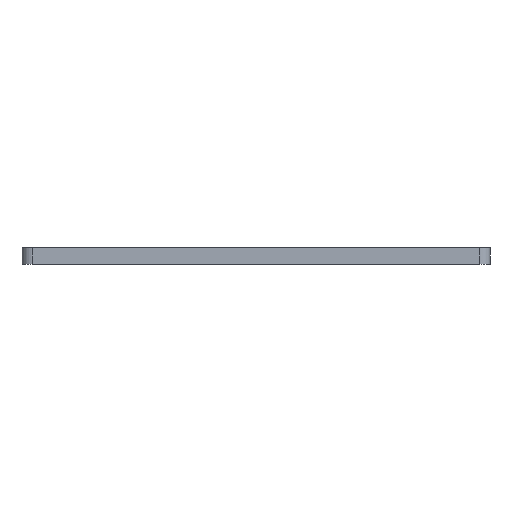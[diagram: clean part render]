
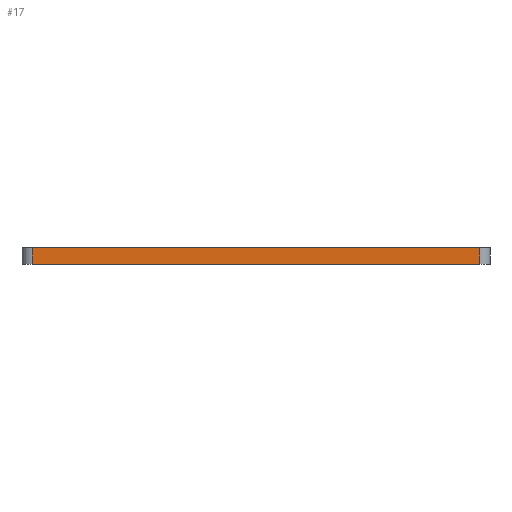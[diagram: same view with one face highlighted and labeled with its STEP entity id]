
A CAD part, left-side view. The second image highlights one B-rep face of the part: STEP entity #17.
In plain terms, the highlighted planar face has unit normal (-1, 0, 0).
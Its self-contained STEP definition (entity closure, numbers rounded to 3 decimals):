
#17 = ADVANCED_FACE('',(#18),#32,.T.);
#18 = FACE_BOUND('',#19,.T.);
#19 = EDGE_LOOP('',(#20,#55,#83,#111));
#20 = ORIENTED_EDGE('',*,*,#21,.T.);
#21 = EDGE_CURVE('',#22,#24,#26,.T.);
#22 = VERTEX_POINT('',#23);
#23 = CARTESIAN_POINT('',(0.,3.75,0.));
#24 = VERTEX_POINT('',#25);
#25 = CARTESIAN_POINT('',(0.,3.75,5.8));
#26 = SURFACE_CURVE('',#27,(#31,#43),.PCURVE_S1.);
#27 = LINE('',#28,#29);
#28 = CARTESIAN_POINT('',(0.,3.75,0.));
#29 = VECTOR('',#30,1.);
#30 = DIRECTION('',(0.,0.,1.));
#31 = PCURVE('',#32,#37);
#32 = PLANE('',#33);
#33 = AXIS2_PLACEMENT_3D('',#34,#35,#36);
#34 = CARTESIAN_POINT('',(0.,3.75,0.));
#35 = DIRECTION('',(-1.,0.,0.));
#36 = DIRECTION('',(0.,1.,0.));
#37 = DEFINITIONAL_REPRESENTATION('',(#38),#42);
#38 = LINE('',#39,#40);
#39 = CARTESIAN_POINT('',(0.,0.));
#40 = VECTOR('',#41,1.);
#41 = DIRECTION('',(0.,-1.));
#42 = ( GEOMETRIC_REPRESENTATION_CONTEXT(2) 
PARAMETRIC_REPRESENTATION_CONTEXT() REPRESENTATION_CONTEXT('2D SPACE',''
  ) );
#43 = PCURVE('',#44,#49);
#44 = CYLINDRICAL_SURFACE('',#45,3.75);
#45 = AXIS2_PLACEMENT_3D('',#46,#47,#48);
#46 = CARTESIAN_POINT('',(3.75,3.75,0.));
#47 = DIRECTION('',(0.,0.,-1.));
#48 = DIRECTION('',(-1.,0.,0.));
#49 = DEFINITIONAL_REPRESENTATION('',(#50),#54);
#50 = LINE('',#51,#52);
#51 = CARTESIAN_POINT('',(6.283,0.));
#52 = VECTOR('',#53,1.);
#53 = DIRECTION('',(0.,-1.));
#54 = ( GEOMETRIC_REPRESENTATION_CONTEXT(2) 
PARAMETRIC_REPRESENTATION_CONTEXT() REPRESENTATION_CONTEXT('2D SPACE',''
  ) );
#55 = ORIENTED_EDGE('',*,*,#56,.T.);
#56 = EDGE_CURVE('',#24,#57,#59,.T.);
#57 = VERTEX_POINT('',#58);
#58 = CARTESIAN_POINT('',(0.,164.25,5.8));
#59 = SURFACE_CURVE('',#60,(#64,#71),.PCURVE_S1.);
#60 = LINE('',#61,#62);
#61 = CARTESIAN_POINT('',(0.,84.,5.8));
#62 = VECTOR('',#63,1.);
#63 = DIRECTION('',(0.,1.,0.));
#64 = PCURVE('',#32,#65);
#65 = DEFINITIONAL_REPRESENTATION('',(#66),#70);
#66 = LINE('',#67,#68);
#67 = CARTESIAN_POINT('',(80.25,-5.8));
#68 = VECTOR('',#69,1.);
#69 = DIRECTION('',(1.,0.));
#70 = ( GEOMETRIC_REPRESENTATION_CONTEXT(2) 
PARAMETRIC_REPRESENTATION_CONTEXT() REPRESENTATION_CONTEXT('2D SPACE',''
  ) );
#71 = PCURVE('',#72,#77);
#72 = PLANE('',#73);
#73 = AXIS2_PLACEMENT_3D('',#74,#75,#76);
#74 = CARTESIAN_POINT('',(105.,84.,5.8));
#75 = DIRECTION('',(0.,0.,1.));
#76 = DIRECTION('',(1.,0.,-0.));
#77 = DEFINITIONAL_REPRESENTATION('',(#78),#82);
#78 = LINE('',#79,#80);
#79 = CARTESIAN_POINT('',(-105.,0.));
#80 = VECTOR('',#81,1.);
#81 = DIRECTION('',(0.,1.));
#82 = ( GEOMETRIC_REPRESENTATION_CONTEXT(2) 
PARAMETRIC_REPRESENTATION_CONTEXT() REPRESENTATION_CONTEXT('2D SPACE',''
  ) );
#83 = ORIENTED_EDGE('',*,*,#84,.F.);
#84 = EDGE_CURVE('',#85,#57,#87,.T.);
#85 = VERTEX_POINT('',#86);
#86 = CARTESIAN_POINT('',(0.,164.25,0.));
#87 = SURFACE_CURVE('',#88,(#92,#99),.PCURVE_S1.);
#88 = LINE('',#89,#90);
#89 = CARTESIAN_POINT('',(0.,164.25,0.));
#90 = VECTOR('',#91,1.);
#91 = DIRECTION('',(0.,0.,1.));
#92 = PCURVE('',#32,#93);
#93 = DEFINITIONAL_REPRESENTATION('',(#94),#98);
#94 = LINE('',#95,#96);
#95 = CARTESIAN_POINT('',(160.5,0.));
#96 = VECTOR('',#97,1.);
#97 = DIRECTION('',(0.,-1.));
#98 = ( GEOMETRIC_REPRESENTATION_CONTEXT(2) 
PARAMETRIC_REPRESENTATION_CONTEXT() REPRESENTATION_CONTEXT('2D SPACE',''
  ) );
#99 = PCURVE('',#100,#105);
#100 = CYLINDRICAL_SURFACE('',#101,3.75);
#101 = AXIS2_PLACEMENT_3D('',#102,#103,#104);
#102 = CARTESIAN_POINT('',(3.75,164.25,0.));
#103 = DIRECTION('',(0.,0.,-1.));
#104 = DIRECTION('',(-1.,0.,0.));
#105 = DEFINITIONAL_REPRESENTATION('',(#106),#110);
#106 = LINE('',#107,#108);
#107 = CARTESIAN_POINT('',(0.,0.));
#108 = VECTOR('',#109,1.);
#109 = DIRECTION('',(0.,-1.));
#110 = ( GEOMETRIC_REPRESENTATION_CONTEXT(2) 
PARAMETRIC_REPRESENTATION_CONTEXT() REPRESENTATION_CONTEXT('2D SPACE',''
  ) );
#111 = ORIENTED_EDGE('',*,*,#112,.F.);
#112 = EDGE_CURVE('',#22,#85,#113,.T.);
#113 = SURFACE_CURVE('',#114,(#118,#125),.PCURVE_S1.);
#114 = LINE('',#115,#116);
#115 = CARTESIAN_POINT('',(0.,84.,0.));
#116 = VECTOR('',#117,1.);
#117 = DIRECTION('',(0.,1.,0.));
#118 = PCURVE('',#32,#119);
#119 = DEFINITIONAL_REPRESENTATION('',(#120),#124);
#120 = LINE('',#121,#122);
#121 = CARTESIAN_POINT('',(80.25,0.));
#122 = VECTOR('',#123,1.);
#123 = DIRECTION('',(1.,0.));
#124 = ( GEOMETRIC_REPRESENTATION_CONTEXT(2) 
PARAMETRIC_REPRESENTATION_CONTEXT() REPRESENTATION_CONTEXT('2D SPACE',''
  ) );
#125 = PCURVE('',#126,#131);
#126 = PLANE('',#127);
#127 = AXIS2_PLACEMENT_3D('',#128,#129,#130);
#128 = CARTESIAN_POINT('',(105.,84.,0.));
#129 = DIRECTION('',(0.,0.,1.));
#130 = DIRECTION('',(1.,0.,-0.));
#131 = DEFINITIONAL_REPRESENTATION('',(#132),#136);
#132 = LINE('',#133,#134);
#133 = CARTESIAN_POINT('',(-105.,0.));
#134 = VECTOR('',#135,1.);
#135 = DIRECTION('',(0.,1.));
#136 = ( GEOMETRIC_REPRESENTATION_CONTEXT(2) 
PARAMETRIC_REPRESENTATION_CONTEXT() REPRESENTATION_CONTEXT('2D SPACE',''
  ) );
